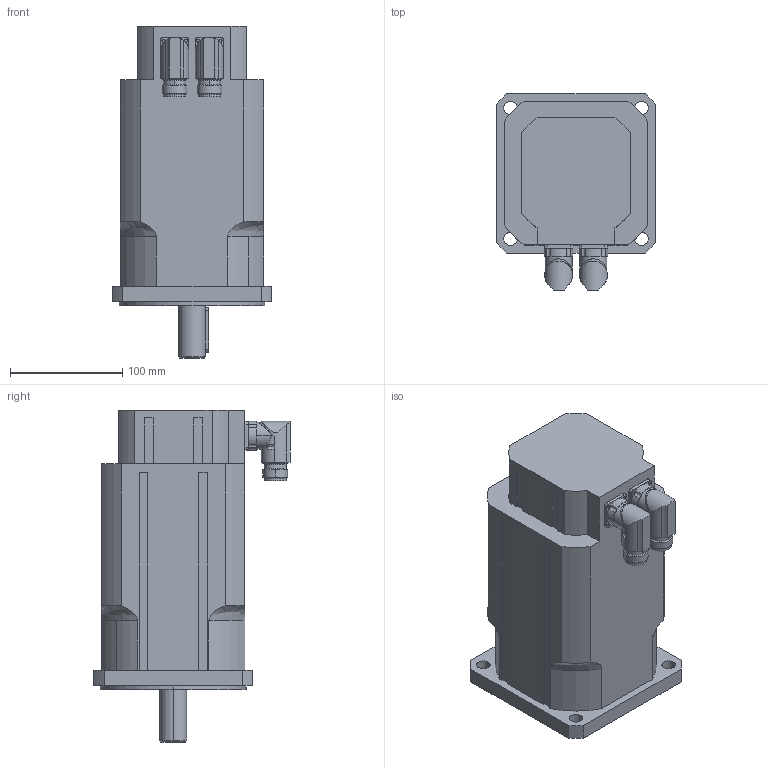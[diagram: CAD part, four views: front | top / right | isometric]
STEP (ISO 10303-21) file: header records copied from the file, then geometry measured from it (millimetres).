
FILE_DESCRIPTION(('STEP AP203'),'2;1');
FILE_NAME('MT5-1350_X.stp','2006-08-28T20:50:36',(''),(''),'2005.2.102','THINKDESIGN','');
FILE_SCHEMA(('CONFIG_CONTROL_DESIGN'));
Length unit declared in the file: millimetre
Bounding box: 142 x 175.5 x 296 mm (x, y, z)
Volume: 3693793.9 mm3; surface area: 183643.4 mm2
Topology: 3 solids, 3 shells, 255 faces, 679 edges, 439 vertices
Faces by surface type: cylinder 110, plane 107, bspline 38
Full cylindrical faces by diameter (mm): 20 x2
Entity records: 9316 total; most frequent: CARTESIAN_POINT 2863, ORIENTED_EDGE 1354, DIRECTION 1327, EDGE_CURVE 677, AXIS2_PLACEMENT_3D 493, VERTEX_POINT 439, VECTOR 341, LINE 341
